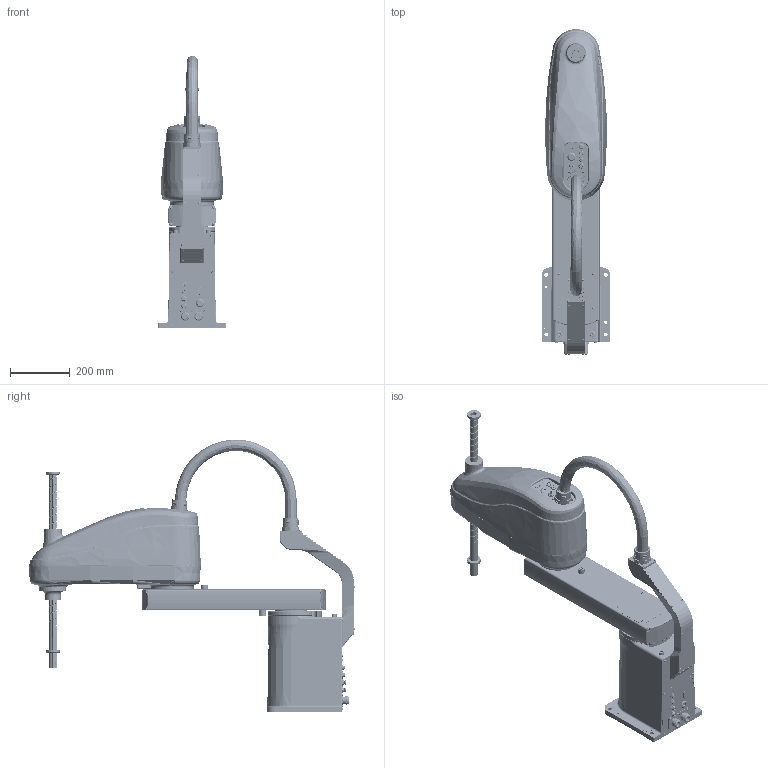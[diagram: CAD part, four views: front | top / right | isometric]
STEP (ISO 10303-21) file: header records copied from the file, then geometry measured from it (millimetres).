
FILE_DESCRIPTION (( 'STEP AP203' ), '1' );
FILE_NAME ('CRP-RS08-20Z40.STEP', '2023-04-13T09:26:40', ( '8618040356960' ), ( '' ), 'SwSTEP 2.0', 'SolidWorks 2021', '' );
FILE_SCHEMA (( 'CONFIG_CONTROL_DESIGN' ));
Products named in the file (6): RS1020-04 ; RS1020-03 ; CRP-RS08-20Z40; RS0820-02; 0820奪盄婦; RS1020-01
Assembly tree (5 placements, depth 2):
  CRP-RS08-20Z40
    RS1020-01
    RS0820-02
    RS1020-03 
    RS1020-04 
    0820奪盄婦
Bounding box: 230 x 1093.9 x 916.09 mm (x, y, z)
Volume: 42097593.6 mm3; surface area: 1972043.8 mm2
Topology: 61 solids, 131 shells, 6491 faces, 16040 edges, 10019 vertices
Faces by surface type: plane 2614, cylinder 2168, cone 848, bspline 597, torus 210, sphere 54
Entity records: 267060 total; most frequent: CARTESIAN_POINT 117153, ORIENTED_EDGE 31576, DIRECTION 30248, EDGE_CURVE 15788, AXIS2_PLACEMENT_3D 11541, VERTEX_POINT 9997, EDGE_LOOP 7299, VECTOR 7166
